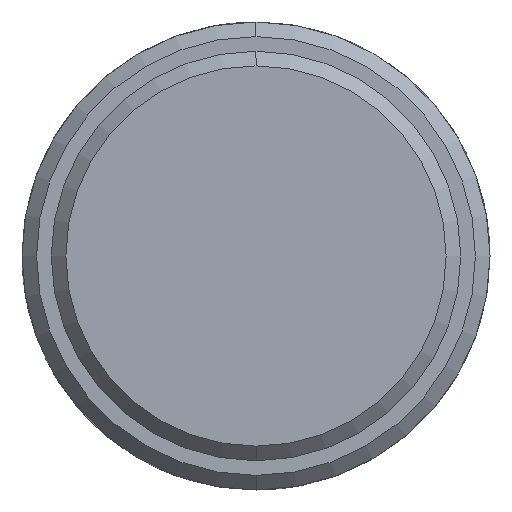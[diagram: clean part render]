
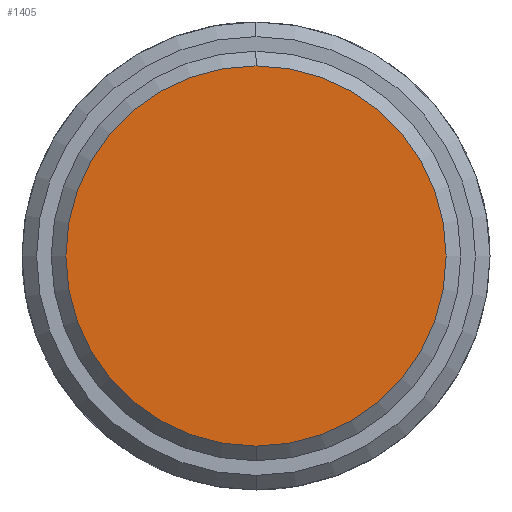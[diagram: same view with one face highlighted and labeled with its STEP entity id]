
A CAD part, left-side view. The second image highlights one B-rep face of the part: STEP entity #1405.
In plain terms, the highlighted planar face has unit normal (-1, 0, 0).
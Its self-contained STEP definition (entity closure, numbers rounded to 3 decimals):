
#1337=CARTESIAN_POINT('Vertex',(-16.,0.,-13.)) ;
#1340=CARTESIAN_POINT('Axis2P3D Location',(-16.,0.,0.)) ;
#1344=CARTESIAN_POINT('Vertex',(-16.,13.,0.)) ;
#1347=CARTESIAN_POINT('Axis2P3D Location',(-16.,0.,0.)) ;
#1351=CARTESIAN_POINT('Vertex',(-16.,0.,13.)) ;
#1373=CARTESIAN_POINT('Axis2P3D Location',(-16.,0.,0.)) ;
#1377=CARTESIAN_POINT('Vertex',(-16.,-13.,0.)) ;
#1380=CARTESIAN_POINT('Axis2P3D Location',(-16.,0.,0.)) ;
#1394=CARTESIAN_POINT('Axis2P3D Location',(-16.,0.,0.)) ;
#1341=DIRECTION('Axis2P3D Direction',(1.,0.,-0.)) ;
#1348=DIRECTION('Axis2P3D Direction',(1.,0.,-0.)) ;
#1374=DIRECTION('Axis2P3D Direction',(1.,0.,-0.)) ;
#1381=DIRECTION('Axis2P3D Direction',(1.,0.,-0.)) ;
#1395=DIRECTION('Axis2P3D Direction',(1.,0.,-0.)) ;
#1396=DIRECTION('Axis2P3D XDirection',(-0.,0.,-1.)) ;
#1342=AXIS2_PLACEMENT_3D('Circle Axis2P3D',#1340,#1341,$) ;
#1349=AXIS2_PLACEMENT_3D('Circle Axis2P3D',#1347,#1348,$) ;
#1375=AXIS2_PLACEMENT_3D('Circle Axis2P3D',#1373,#1374,$) ;
#1382=AXIS2_PLACEMENT_3D('Circle Axis2P3D',#1380,#1381,$) ;
#1397=AXIS2_PLACEMENT_3D('Plane Axis2P3D',#1394,#1395,#1396) ;
#1400=ORIENTED_EDGE('',*,*,#1346,.F.) ;
#1401=ORIENTED_EDGE('',*,*,#1384,.F.) ;
#1402=ORIENTED_EDGE('',*,*,#1379,.F.) ;
#1403=ORIENTED_EDGE('',*,*,#1353,.F.) ;
#1405=ADVANCED_FACE('357-20X56X80',(#1404),#1398,.F.) ;
#1343=CIRCLE('generated circle',#1342,13.) ;
#1350=CIRCLE('generated circle',#1349,13.) ;
#1376=CIRCLE('generated circle',#1375,13.) ;
#1383=CIRCLE('generated circle',#1382,13.) ;
#1346=EDGE_CURVE('',#1338,#1345,#1343,.T.) ;
#1353=EDGE_CURVE('',#1345,#1352,#1350,.T.) ;
#1379=EDGE_CURVE('',#1352,#1378,#1376,.T.) ;
#1384=EDGE_CURVE('',#1378,#1338,#1383,.T.) ;
#1399=EDGE_LOOP('',(#1400,#1401,#1402,#1403)) ;
#1404=FACE_OUTER_BOUND('',#1399,.T.) ;
#1398=PLANE('Plane',#1397) ;
#1338=VERTEX_POINT('',#1337) ;
#1345=VERTEX_POINT('',#1344) ;
#1352=VERTEX_POINT('',#1351) ;
#1378=VERTEX_POINT('',#1377) ;
